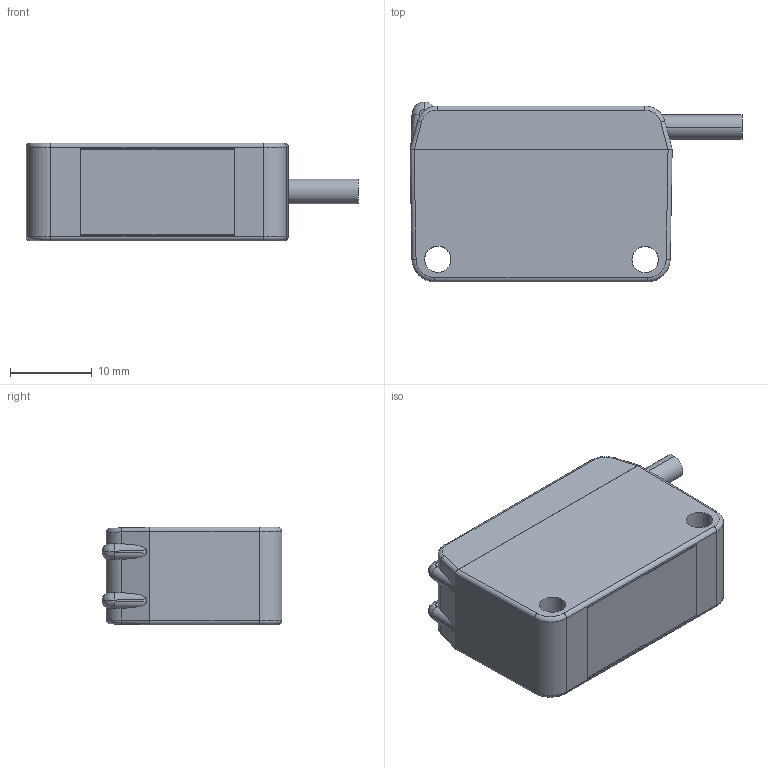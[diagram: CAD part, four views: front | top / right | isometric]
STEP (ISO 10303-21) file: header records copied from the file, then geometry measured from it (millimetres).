
FILE_DESCRIPTION (( 'STEP AP214' ), '1' );
FILE_NAME ('BOL0.STEP', '2025-05-27T00:52:45', ( '' ), ( '' ), 'SwSTEP 2.0', 'SolidWorks 2022', '' );
FILE_SCHEMA (( 'AUTOMOTIVE_DESIGN' ));
Length unit declared in the file: millimetre
Products named in the file (1): BOL0
Bounding box: 40.69 x 22.03 x 11.99 mm (x, y, z)
Volume: 2924 mm3; surface area: 5818.9 mm2
Topology: 6 solids, 6 shells, 454 faces, 1292 edges, 846 vertices
Faces by surface type: plane 365, cylinder 65, bspline 14, cone 6, torus 4
Entity records: 14926 total; most frequent: CARTESIAN_POINT 3119, ORIENTED_EDGE 2584, DIRECTION 2233, EDGE_CURVE 1292, VECTOR 1087, LINE 1087, VERTEX_POINT 846, AXIS2_PLACEMENT_3D 573
